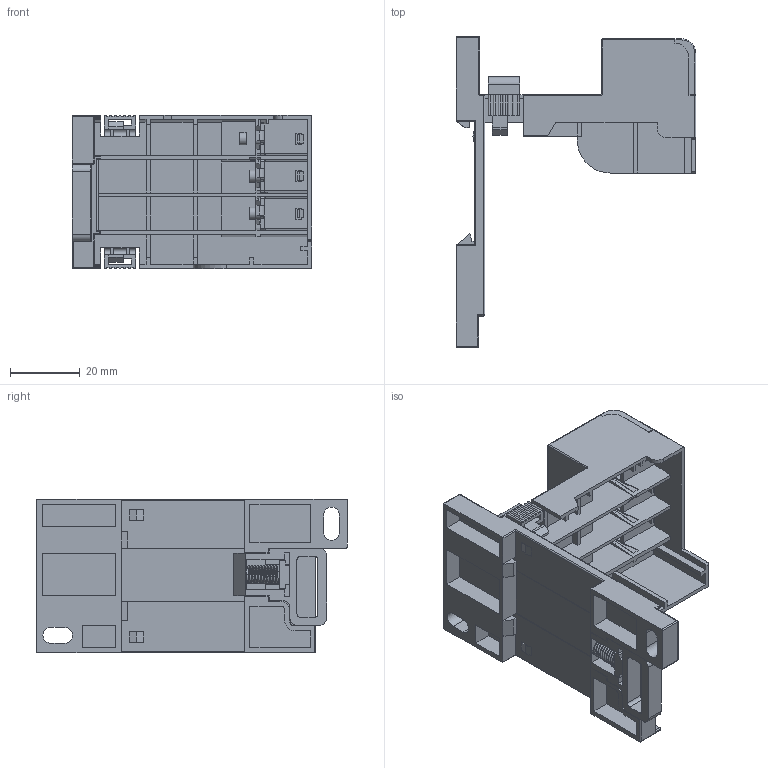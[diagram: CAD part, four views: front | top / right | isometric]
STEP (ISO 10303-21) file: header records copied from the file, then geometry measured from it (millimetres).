
FILE_DESCRIPTION (( 'STEP AP214' ), '1' );
FILE_NAME ('TENGEN_FZ1-18.STEP', '2026-03-26T11:15:51', ( '' ), ( '' ), 'SwSTEP 2.0', 'SolidWorks 2024', '' );
FILE_SCHEMA (( 'AUTOMOTIVE_DESIGN' ));
Length unit declared in the file: millimetre
Products named in the file (19): 2_AF2.stp; 8TZD_585_1326_AF2.stp; 8TZD_282_3001.stp; ZBW_050_AF0_ASM.stp; 8TZD_064_1090_AF0.stp; 8TZD_110_1016_AF1.stp; 2_AF0.stp; TENGEN_FZ1-18; 8TZD_110_1016_AF0.stp; 8TZD_300_1198.stp; 2_AF1.stp; TENGEN_FZ1-18.stp; 8TZD_585_1326_AF1.stp; ZBW_050_AF1_ASM.stp; 8TZD_585_1326_AF0.stp; ZBW_050_AF2_ASM.stp; 8TZD_261_3002.stp; 8TZD_110_1016_AF2.stp; 1.stp
Assembly tree (20 placements, depth 4):
  TENGEN_FZ1-18
    TENGEN_FZ1-18.stp
      ZBW_050_AF0_ASM.stp
        1.stp
        2_AF0.stp
      ZBW_050_AF1_ASM.stp
        1.stp
        2_AF1.stp
      ZBW_050_AF2_ASM.stp
        1.stp
        2_AF2.stp
      8TZD_064_1090_AF0.stp
      8TZD_300_1198.stp
      8TZD_585_1326_AF0.stp
      8TZD_585_1326_AF1.stp
      8TZD_585_1326_AF2.stp
      8TZD_110_1016_AF0.stp
      8TZD_110_1016_AF1.stp
      8TZD_110_1016_AF2.stp
      8TZD_261_3002.stp
      8TZD_282_3001.stp
Bounding box: 68.7 x 89 x 44 mm (x, y, z)
Volume: 25183.7 mm3; surface area: 37512.7 mm2
Topology: 13 solids, 16 shells, 1889 faces, 5261 edges, 3401 vertices
Faces by surface type: plane 1413, cylinder 343, torus 79, bspline 27, sphere 15, cone 12
Entity records: 59589 total; most frequent: CARTESIAN_POINT 15824, ORIENTED_EDGE 9324, DIRECTION 8526, EDGE_CURVE 4668, LINE 3838, VECTOR 3838, VERTEX_POINT 3045, AXIS2_PLACEMENT_3D 2344
